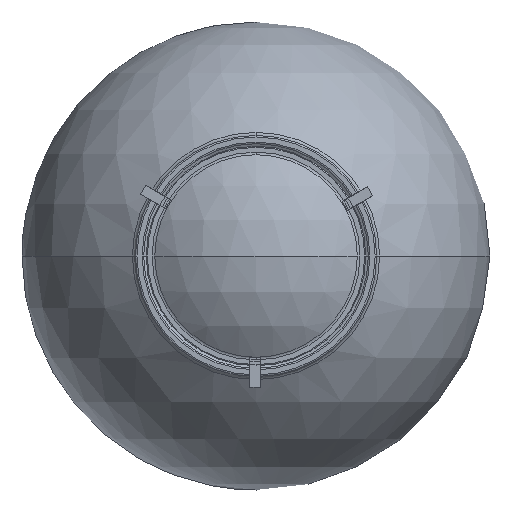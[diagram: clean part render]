
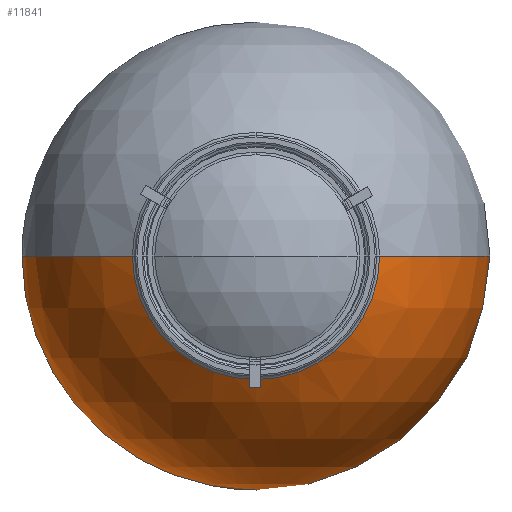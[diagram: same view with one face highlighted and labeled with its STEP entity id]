
A CAD part, front view. The second image highlights one B-rep face of the part: STEP entity #11841.
In plain terms, the highlighted spherical face has radius 112.5 mm.
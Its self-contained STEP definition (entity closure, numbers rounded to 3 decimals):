
#9 = CARTESIAN_POINT ( 'NONE',  ( -59.416, 7.866, 0. ) ) ;
#144 = CARTESIAN_POINT ( 'NONE',  ( 59.416, 7.866, 0. ) ) ;
#196 = ORIENTED_EDGE ( 'NONE', *, *, #11092, .T. ) ;
#642 = CARTESIAN_POINT ( 'NONE',  ( 0., 7.866, -59.416 ) ) ;
#645 = DIRECTION ( 'NONE',  ( 0., 1., 0. ) ) ;
#1154 = AXIS2_PLACEMENT_3D ( 'NONE', #13805, #13893, #3143 ) ;
#1183 = FACE_OUTER_BOUND ( 'NONE', #5946, .T. ) ;
#1837 = CARTESIAN_POINT ( 'NONE',  ( 0., 103.396, 0. ) ) ;
#1946 = ORIENTED_EDGE ( 'NONE', *, *, #5087, .T. ) ;
#2175 = DIRECTION ( 'NONE',  ( 0., 1., 0. ) ) ;
#2242 = AXIS2_PLACEMENT_3D ( 'NONE', #15833, #645, #13096 ) ;
#2267 = VERTEX_POINT ( 'NONE', #144 ) ;
#2979 = ORIENTED_EDGE ( 'NONE', *, *, #6171, .T. ) ;
#3000 = CIRCLE ( 'NONE', #4468, 112.5 ) ;
#3143 = DIRECTION ( 'NONE',  ( -1., 0., 0. ) ) ;
#3471 = VERTEX_POINT ( 'NONE', #12874 ) ;
#3497 = DIRECTION ( 'NONE',  ( 0., 0., -1. ) ) ;
#3899 = CARTESIAN_POINT ( 'NONE',  ( 0., 213.973, 0. ) ) ;
#4468 = AXIS2_PLACEMENT_3D ( 'NONE', #7784, #12412, #5525 ) ;
#4765 = AXIS2_PLACEMENT_3D ( 'NONE', #15734, #2175, #6349 ) ;
#4788 = ORIENTED_EDGE ( 'NONE', *, *, #15517, .T. ) ;
#5087 = EDGE_CURVE ( 'NONE', #15058, #14043, #16844, .T. ) ;
#5358 = DIRECTION ( 'NONE',  ( 0., 0., -1. ) ) ;
#5525 = DIRECTION ( 'NONE',  ( -1., 0., 0. ) ) ;
#5942 = CARTESIAN_POINT ( 'NONE',  ( 0., 213.973, -20.711 ) ) ;
#5946 = EDGE_LOOP ( 'NONE', ( #4788, #1946, #16540, #196, #2979, #12872 ) ) ;
#6171 = EDGE_CURVE ( 'NONE', #17198, #16730, #16676, .T. ) ;
#6241 = CIRCLE ( 'NONE', #16969, 20.711 ) ;
#6349 = DIRECTION ( 'NONE',  ( 0., 0., 1. ) ) ;
#6853 = CARTESIAN_POINT ( 'NONE',  ( 20.711, 213.973, 0. ) ) ;
#7344 = DIRECTION ( 'NONE',  ( 0., 0., 1. ) ) ;
#7784 = CARTESIAN_POINT ( 'NONE',  ( 0., 103.396, 0. ) ) ;
#8994 = AXIS2_PLACEMENT_3D ( 'NONE', #1837, #7344, #10011 ) ;
#9103 = EDGE_CURVE ( 'NONE', #14043, #2267, #3000, .T. ) ;
#9286 = CARTESIAN_POINT ( 'NONE',  ( 0., 213.973, 0. ) ) ;
#10011 = DIRECTION ( 'NONE',  ( 1., 0., 0. ) ) ;
#10617 = DIRECTION ( 'NONE',  ( 0., -1., 0. ) ) ;
#11092 = EDGE_CURVE ( 'NONE', #2267, #17198, #15601, .T. ) ;
#11841 = ADVANCED_FACE ( 'NONE', ( #1183 ), #16716, .T. ) ;
#12412 = DIRECTION ( 'NONE',  ( 0., 0., -1. ) ) ;
#12872 = ORIENTED_EDGE ( 'NONE', *, *, #12943, .F. ) ;
#12874 = CARTESIAN_POINT ( 'NONE',  ( -20.711, 213.973, 0. ) ) ;
#12943 = EDGE_CURVE ( 'NONE', #3471, #16730, #16843, .T. ) ;
#13096 = DIRECTION ( 'NONE',  ( 0., 0., 1. ) ) ;
#13366 = AXIS2_PLACEMENT_3D ( 'NONE', #9286, #17452, #3497 ) ;
#13805 = CARTESIAN_POINT ( 'NONE',  ( 0., 103.396, 0. ) ) ;
#13893 = DIRECTION ( 'NONE',  ( 0., 0., -1. ) ) ;
#14043 = VERTEX_POINT ( 'NONE', #6853 ) ;
#15058 = VERTEX_POINT ( 'NONE', #5942 ) ;
#15517 = EDGE_CURVE ( 'NONE', #3471, #15058, #6241, .T. ) ;
#15601 = CIRCLE ( 'NONE', #2242, 59.416 ) ;
#15734 = CARTESIAN_POINT ( 'NONE',  ( 0., 7.866, 0. ) ) ;
#15833 = CARTESIAN_POINT ( 'NONE',  ( 0., 7.866, 0. ) ) ;
#16540 = ORIENTED_EDGE ( 'NONE', *, *, #9103, .T. ) ;
#16676 = CIRCLE ( 'NONE', #4765, 59.416 ) ;
#16716 = SPHERICAL_SURFACE ( 'NONE', #1154, 112.5 ) ;
#16730 = VERTEX_POINT ( 'NONE', #9 ) ;
#16843 = CIRCLE ( 'NONE', #8994, 112.5 ) ;
#16844 = CIRCLE ( 'NONE', #13366, 20.711 ) ;
#16969 = AXIS2_PLACEMENT_3D ( 'NONE', #3899, #10617, #5358 ) ;
#17198 = VERTEX_POINT ( 'NONE', #642 ) ;
#17452 = DIRECTION ( 'NONE',  ( 0., -1., 0. ) ) ;
